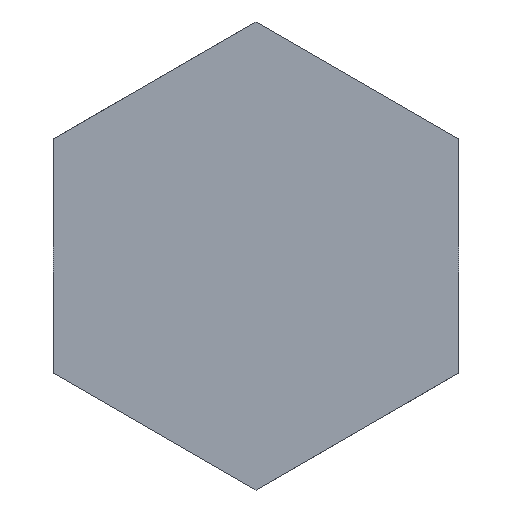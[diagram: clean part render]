
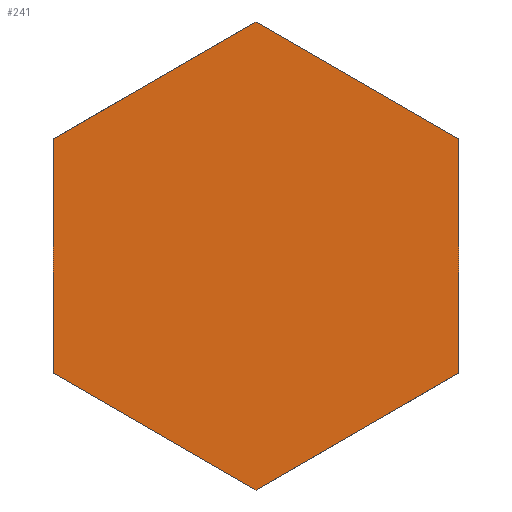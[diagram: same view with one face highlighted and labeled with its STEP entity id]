
A CAD part, front view. The second image highlights one B-rep face of the part: STEP entity #241.
In plain terms, the highlighted planar face has unit normal (0, -1, 0).
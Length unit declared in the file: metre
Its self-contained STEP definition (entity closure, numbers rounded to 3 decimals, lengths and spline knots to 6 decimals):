
#13=LINE('',#2534,#31);
#16=LINE('',#2542,#34);
#19=LINE('',#2548,#37);
#22=LINE('',#2554,#40);
#25=LINE('',#2562,#43);
#28=LINE('',#2568,#46);
#31=VECTOR('',#292,1.);
#34=VECTOR('',#299,1.);
#37=VECTOR('',#304,1.);
#40=VECTOR('',#309,1.);
#43=VECTOR('',#316,1.);
#46=VECTOR('',#321,1.);
#55=PLANE('',#272);
#119=ORIENTED_EDGE('',*,*,#144,.F.);
#120=ORIENTED_EDGE('',*,*,#161,.F.);
#121=ORIENTED_EDGE('',*,*,#158,.F.);
#122=ORIENTED_EDGE('',*,*,#154,.F.);
#123=ORIENTED_EDGE('',*,*,#151,.F.);
#124=ORIENTED_EDGE('',*,*,#148,.F.);
#144=EDGE_CURVE('',#172,#173,#13,.T.);
#148=EDGE_CURVE('',#173,#176,#16,.T.);
#151=EDGE_CURVE('',#176,#178,#19,.T.);
#154=EDGE_CURVE('',#178,#180,#22,.T.);
#158=EDGE_CURVE('',#180,#183,#25,.T.);
#161=EDGE_CURVE('',#183,#172,#28,.T.);
#172=VERTEX_POINT('',#2533);
#173=VERTEX_POINT('',#2535);
#176=VERTEX_POINT('',#2543);
#178=VERTEX_POINT('',#2549);
#180=VERTEX_POINT('',#2555);
#183=VERTEX_POINT('',#2563);
#205=EDGE_LOOP('',(#119,#120,#121,#122,#123,#124));
#223=FACE_BOUND('',#205,.T.);
#241=ADVANCED_FACE('',(#223),#55,.F.);
#272=AXIS2_PLACEMENT_3D('',#2571,#325,#326);
#292=DIRECTION('',(0.,0.,-1.));
#299=DIRECTION('',(-0.866,0.,-0.5));
#304=DIRECTION('',(-0.866,0.,0.5));
#309=DIRECTION('',(0.,0.,1.));
#316=DIRECTION('',(0.866,0.,0.5));
#321=DIRECTION('',(0.866,0.,-0.5));
#325=DIRECTION('',(0.,1.,0.));
#326=DIRECTION('',(-1.,0.,0.));
#2533=CARTESIAN_POINT('',(0.0049,0.0024,0.002829));
#2534=CARTESIAN_POINT('',(0.0049,0.0024,0.002829));
#2535=CARTESIAN_POINT('',(0.0049,0.0024,-0.002829));
#2542=CARTESIAN_POINT('',(0.0049,0.0024,-0.002829));
#2543=CARTESIAN_POINT('',(0.,0.0024,-0.005658));
#2548=CARTESIAN_POINT('',(0.,0.0024,-0.005658));
#2549=CARTESIAN_POINT('',(-0.0049,0.0024,-0.002829));
#2554=CARTESIAN_POINT('',(-0.0049,0.0024,-0.002829));
#2555=CARTESIAN_POINT('',(-0.0049,0.0024,0.002829));
#2562=CARTESIAN_POINT('',(-0.0049,0.0024,0.002829));
#2563=CARTESIAN_POINT('',(0.,0.0024,0.005658));
#2568=CARTESIAN_POINT('',(0.,0.0024,0.005658));
#2571=CARTESIAN_POINT('',(0.,0.0024,0.));
